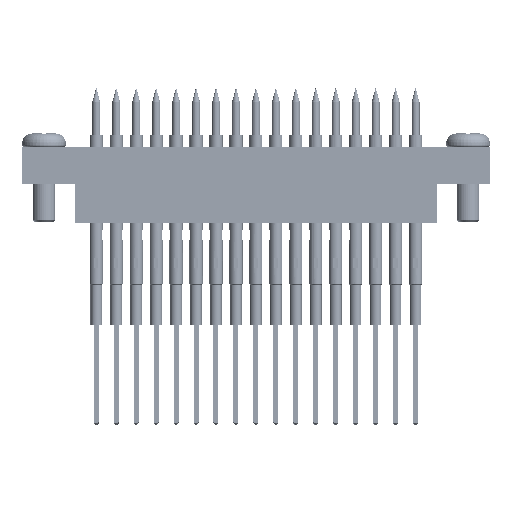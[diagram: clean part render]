
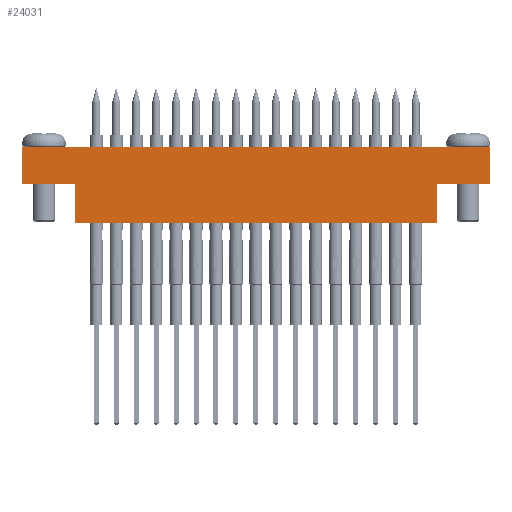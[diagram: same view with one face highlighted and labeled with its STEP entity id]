
A CAD part, left-side view. The second image highlights one B-rep face of the part: STEP entity #24031.
In plain terms, the highlighted planar face has unit normal (-1, 0, 0).
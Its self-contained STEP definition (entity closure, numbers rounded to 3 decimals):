
#667 = ORIENTED_EDGE ( 'NONE', *, *, #7076, .T. ) ;
#1235 = CARTESIAN_POINT ( 'NONE',  ( -14.16, 23.05, -4.826 ) ) ;
#2235 = ORIENTED_EDGE ( 'NONE', *, *, #7185, .F. ) ;
#2694 = EDGE_CURVE ( 'NONE', #7218, #12635, #12638, .T. ) ;
#3069 = LINE ( 'NONE', #9701, #16590 ) ;
#3930 = VECTOR ( 'NONE', #17015, 1000. ) ;
#4649 = ORIENTED_EDGE ( 'NONE', *, *, #4744, .F. ) ;
#4666 = DIRECTION ( 'NONE',  ( 0., 1., 0. ) ) ;
#4744 = EDGE_CURVE ( 'NONE', #12635, #25213, #10329, .T. ) ;
#6698 = LINE ( 'NONE', #31693, #28865 ) ;
#7076 = EDGE_CURVE ( 'NONE', #7218, #13467, #11641, .T. ) ;
#7174 = ORIENTED_EDGE ( 'NONE', *, *, #25090, .T. ) ;
#7185 = EDGE_CURVE ( 'NONE', #22548, #19513, #31977, .T. ) ;
#7218 = VERTEX_POINT ( 'NONE', #9084 ) ;
#7944 = ORIENTED_EDGE ( 'NONE', *, *, #27105, .T. ) ;
#8320 = CARTESIAN_POINT ( 'NONE',  ( -14.16, 29.782, 4.826 ) ) ;
#8923 = VECTOR ( 'NONE', #35099, 1000. ) ;
#9084 = CARTESIAN_POINT ( 'NONE',  ( -14.16, 29.782, 4.826 ) ) ;
#9135 = AXIS2_PLACEMENT_3D ( 'NONE', #36404, #22031, #4666 ) ;
#9444 = ORIENTED_EDGE ( 'NONE', *, *, #24814, .F. ) ;
#9701 = CARTESIAN_POINT ( 'NONE',  ( -14.16, 23.05, 0.127 ) ) ;
#10329 = LINE ( 'NONE', #30477, #18935 ) ;
#11641 = LINE ( 'NONE', #8320, #3930 ) ;
#12635 = VERTEX_POINT ( 'NONE', #29648 ) ;
#12638 = LINE ( 'NONE', #25905, #27141 ) ;
#12731 = CARTESIAN_POINT ( 'NONE',  ( -14.16, -29.782, 0.127 ) ) ;
#12938 = LINE ( 'NONE', #12731, #18817 ) ;
#13158 = DIRECTION ( 'NONE',  ( 0., 0., -1. ) ) ;
#13176 = ORIENTED_EDGE ( 'NONE', *, *, #2694, .F. ) ;
#13360 = VECTOR ( 'NONE', #22721, 1000. ) ;
#13467 = VERTEX_POINT ( 'NONE', #33329 ) ;
#13904 = ORIENTED_EDGE ( 'NONE', *, *, #26886, .F. ) ;
#14121 = DIRECTION ( 'NONE',  ( 0., 1., 0. ) ) ;
#14879 = CARTESIAN_POINT ( 'NONE',  ( -14.16, -23.051, 0.127 ) ) ;
#16590 = VECTOR ( 'NONE', #27037, 1000. ) ;
#16703 = CARTESIAN_POINT ( 'NONE',  ( -14.16, 29.782, -4.826 ) ) ;
#17015 = DIRECTION ( 'NONE',  ( 0., 0., -1. ) ) ;
#18546 = EDGE_LOOP ( 'NONE', ( #9444, #7174, #7944, #2235, #13904, #4649, #13176, #667 ) ) ;
#18559 = DIRECTION ( 'NONE',  ( 0., 1., 0. ) ) ;
#18688 = CARTESIAN_POINT ( 'NONE',  ( -14.16, -29.782, 0.127 ) ) ;
#18817 = VECTOR ( 'NONE', #18559, 1000. ) ;
#18935 = VECTOR ( 'NONE', #13158, 1000. ) ;
#19110 = PLANE ( 'NONE',  #9135 ) ;
#19513 = VERTEX_POINT ( 'NONE', #20541 ) ;
#20129 = VERTEX_POINT ( 'NONE', #32455 ) ;
#20541 = CARTESIAN_POINT ( 'NONE',  ( -14.16, -23.051, -4.826 ) ) ;
#22031 = DIRECTION ( 'NONE',  ( 1., 0., 0. ) ) ;
#22548 = VERTEX_POINT ( 'NONE', #30900 ) ;
#22721 = DIRECTION ( 'NONE',  ( 0., -1., 0. ) ) ;
#24031 = ADVANCED_FACE ( 'NONE', ( #29821 ), #19110, .F. ) ;
#24814 = EDGE_CURVE ( 'NONE', #20129, #13467, #6698, .T. ) ;
#25090 = EDGE_CURVE ( 'NONE', #20129, #28524, #3069, .T. ) ;
#25213 = VERTEX_POINT ( 'NONE', #18688 ) ;
#25905 = CARTESIAN_POINT ( 'NONE',  ( -14.16, 29.782, 4.826 ) ) ;
#26886 = EDGE_CURVE ( 'NONE', #25213, #22548, #12938, .T. ) ;
#27037 = DIRECTION ( 'NONE',  ( 0., 0., -1. ) ) ;
#27105 = EDGE_CURVE ( 'NONE', #28524, #19513, #36424, .T. ) ;
#27141 = VECTOR ( 'NONE', #31677, 1000. ) ;
#28524 = VERTEX_POINT ( 'NONE', #1235 ) ;
#28865 = VECTOR ( 'NONE', #14121, 1000. ) ;
#29648 = CARTESIAN_POINT ( 'NONE',  ( -14.16, -29.782, 4.826 ) ) ;
#29821 = FACE_OUTER_BOUND ( 'NONE', #18546, .T. ) ;
#30477 = CARTESIAN_POINT ( 'NONE',  ( -14.16, -29.782, 4.826 ) ) ;
#30900 = CARTESIAN_POINT ( 'NONE',  ( -14.16, -23.051, 0.127 ) ) ;
#31677 = DIRECTION ( 'NONE',  ( 0., -1., 0. ) ) ;
#31693 = CARTESIAN_POINT ( 'NONE',  ( -14.16, 29.782, 0.127 ) ) ;
#31977 = LINE ( 'NONE', #14879, #8923 ) ;
#32455 = CARTESIAN_POINT ( 'NONE',  ( -14.16, 23.05, 0.127 ) ) ;
#33329 = CARTESIAN_POINT ( 'NONE',  ( -14.16, 29.782, 0.127 ) ) ;
#35099 = DIRECTION ( 'NONE',  ( 0., 0., -1. ) ) ;
#36404 = CARTESIAN_POINT ( 'NONE',  ( -14.16, 29.782, 4.826 ) ) ;
#36424 = LINE ( 'NONE', #16703, #13360 ) ;
